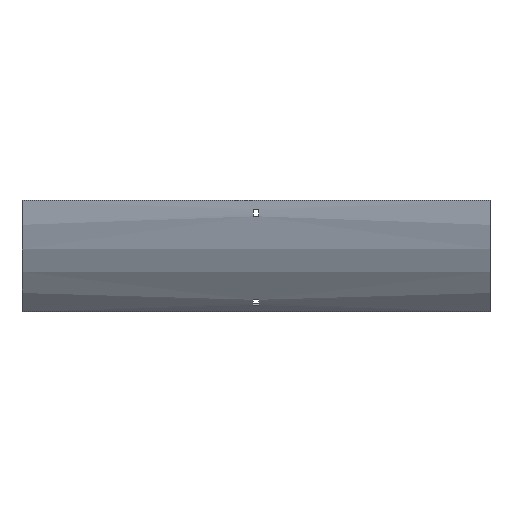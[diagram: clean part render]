
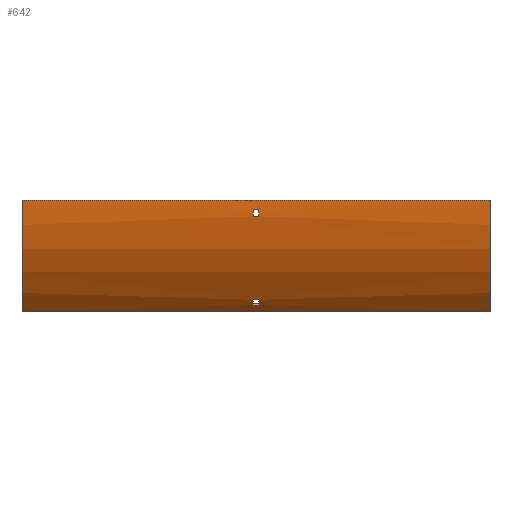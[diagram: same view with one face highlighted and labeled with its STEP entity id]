
A CAD part, front view. The second image highlights one B-rep face of the part: STEP entity #642.
In plain terms, the highlighted cylindrical face has radius 204 mm (diameter 408 mm), a partial arc.
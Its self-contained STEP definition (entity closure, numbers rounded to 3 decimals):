
#9 = DIRECTION ( 'NONE',  ( 1., 0., 0. ) ) ;
#38 = CIRCLE ( 'NONE', #984, 204. ) ;
#81 = VECTOR ( 'NONE', #558, 1000. ) ;
#82 = CARTESIAN_POINT ( 'NONE',  ( 302., -58.333, -128.634 ) ) ;
#98 = CARTESIAN_POINT ( 'NONE',  ( 3.25, -103.647, -12. ) ) ;
#119 = DIRECTION ( 'NONE',  ( 0., 0., 1. ) ) ;
#120 = EDGE_LOOP ( 'NONE', ( #249, #999, #881, #277 ) ) ;
#144 = LINE ( 'NONE', #660, #1035 ) ;
#214 = FACE_BOUND ( 'NONE', #361, .T. ) ;
#220 = AXIS2_PLACEMENT_3D ( 'NONE', #1354, #979, #326 ) ;
#224 = EDGE_CURVE ( 'NONE', #1561, #351, #1635, .T. ) ;
#241 = ORIENTED_EDGE ( 'NONE', *, *, #877, .F. ) ;
#249 = ORIENTED_EDGE ( 'NONE', *, *, #224, .T. ) ;
#277 = ORIENTED_EDGE ( 'NONE', *, *, #1008, .T. ) ;
#313 = CIRCLE ( 'NONE', #220, 204. ) ;
#322 = EDGE_CURVE ( 'NONE', #1539, #1024, #38, .T. ) ;
#326 = DIRECTION ( 'NONE',  ( 0., 0., -1. ) ) ;
#330 = AXIS2_PLACEMENT_3D ( 'NONE', #1257, #1533, #363 ) ;
#350 = DIRECTION ( 'NONE',  ( 1., 0., 0. ) ) ;
#351 = VERTEX_POINT ( 'NONE', #932 ) ;
#361 = EDGE_LOOP ( 'NONE', ( #579, #1224, #543, #638 ) ) ;
#363 = DIRECTION ( 'NONE',  ( 0., 0., 1. ) ) ;
#383 = EDGE_CURVE ( 'NONE', #1030, #654, #1037, .T. ) ;
#403 = AXIS2_PLACEMENT_3D ( 'NONE', #1547, #1212, #567 ) ;
#423 = CARTESIAN_POINT ( 'NONE',  ( 3.25, -52.485, -135.515 ) ) ;
#435 = LINE ( 'NONE', #814, #81 ) ;
#438 = CARTESIAN_POINT ( 'NONE',  ( 302., 100., 0. ) ) ;
#518 = DIRECTION ( 'NONE',  ( 0., 0., -1. ) ) ;
#543 = ORIENTED_EDGE ( 'NONE', *, *, #1205, .T. ) ;
#558 = DIRECTION ( 'NONE',  ( -1., 0., 0. ) ) ;
#567 = DIRECTION ( 'NONE',  ( 0., 0., -1. ) ) ;
#579 = ORIENTED_EDGE ( 'NONE', *, *, #762, .T. ) ;
#601 = LINE ( 'NONE', #1123, #1099 ) ;
#616 = CIRCLE ( 'NONE', #330, 204. ) ;
#618 = VERTEX_POINT ( 'NONE', #861 ) ;
#627 = ORIENTED_EDGE ( 'NONE', *, *, #871, .F. ) ;
#631 = ORIENTED_EDGE ( 'NONE', *, *, #1524, .F. ) ;
#638 = ORIENTED_EDGE ( 'NONE', *, *, #322, .T. ) ;
#642 = ADVANCED_FACE ( 'NONE', ( #1384, #214, #733 ), #1256, .T. ) ;
#654 = VERTEX_POINT ( 'NONE', #1164 ) ;
#660 = CARTESIAN_POINT ( 'NONE',  ( 302., -102.916, -21. ) ) ;
#680 = EDGE_CURVE ( 'NONE', #654, #351, #435, .T. ) ;
#733 = FACE_BOUND ( 'NONE', #754, .T. ) ;
#734 = CARTESIAN_POINT ( 'NONE',  ( -302., -104., 0. ) ) ;
#754 = EDGE_LOOP ( 'NONE', ( #627, #241, #631, #1573 ) ) ;
#762 = EDGE_CURVE ( 'NONE', #1024, #618, #144, .T. ) ;
#814 = CARTESIAN_POINT ( 'NONE',  ( 302., -44.25, -144.25 ) ) ;
#856 = LINE ( 'NONE', #1117, #1529 ) ;
#861 = CARTESIAN_POINT ( 'NONE',  ( -3.25, -102.916, -21. ) ) ;
#871 = EDGE_CURVE ( 'NONE', #1463, #1441, #313, .T. ) ;
#877 = EDGE_CURVE ( 'NONE', #915, #1463, #1377, .T. ) ;
#881 = ORIENTED_EDGE ( 'NONE', *, *, #383, .F. ) ;
#885 = CARTESIAN_POINT ( 'NONE',  ( 302., -103.647, -12. ) ) ;
#886 = DIRECTION ( 'NONE',  ( -1., 0., 0. ) ) ;
#915 = VERTEX_POINT ( 'NONE', #1620 ) ;
#916 = DIRECTION ( 'NONE',  ( -1., 0., 0. ) ) ;
#920 = DIRECTION ( 'NONE',  ( 1., 0., 0. ) ) ;
#932 = CARTESIAN_POINT ( 'NONE',  ( -302., -44.25, -144.25 ) ) ;
#979 = DIRECTION ( 'NONE',  ( 1., 0., 0. ) ) ;
#984 = AXIS2_PLACEMENT_3D ( 'NONE', #1477, #9, #518 ) ;
#999 = ORIENTED_EDGE ( 'NONE', *, *, #680, .F. ) ;
#1001 = CARTESIAN_POINT ( 'NONE',  ( 3.25, 100., 0. ) ) ;
#1008 = EDGE_CURVE ( 'NONE', #1030, #1561, #856, .T. ) ;
#1024 = VERTEX_POINT ( 'NONE', #1378 ) ;
#1030 = VERTEX_POINT ( 'NONE', #1365 ) ;
#1035 = VECTOR ( 'NONE', #916, 1000. ) ;
#1037 = CIRCLE ( 'NONE', #1627, 204. ) ;
#1099 = VECTOR ( 'NONE', #350, 1000. ) ;
#1109 = AXIS2_PLACEMENT_3D ( 'NONE', #1124, #886, #1411 ) ;
#1117 = CARTESIAN_POINT ( 'NONE',  ( 302., -104., 0. ) ) ;
#1120 = EDGE_CURVE ( 'NONE', #1441, #1330, #601, .T. ) ;
#1123 = CARTESIAN_POINT ( 'NONE',  ( 302., -52.485, -135.515 ) ) ;
#1124 = CARTESIAN_POINT ( 'NONE',  ( 302., 100., 0. ) ) ;
#1129 = DIRECTION ( 'NONE',  ( -1., 0., 0. ) ) ;
#1164 = CARTESIAN_POINT ( 'NONE',  ( 302., -44.25, -144.25 ) ) ;
#1178 = VECTOR ( 'NONE', #1227, 1000. ) ;
#1205 = EDGE_CURVE ( 'NONE', #1435, #1539, #1290, .T. ) ;
#1206 = AXIS2_PLACEMENT_3D ( 'NONE', #1001, #1407, #119 ) ;
#1212 = DIRECTION ( 'NONE',  ( 1., 0., 0. ) ) ;
#1224 = ORIENTED_EDGE ( 'NONE', *, *, #1619, .T. ) ;
#1227 = DIRECTION ( 'NONE',  ( -1., 0., 0. ) ) ;
#1256 = CYLINDRICAL_SURFACE ( 'NONE', #1109, 204. ) ;
#1257 = CARTESIAN_POINT ( 'NONE',  ( -3.25, 100., 0. ) ) ;
#1282 = DIRECTION ( 'NONE',  ( 1., 0., 0. ) ) ;
#1290 = LINE ( 'NONE', #885, #1305 ) ;
#1304 = DIRECTION ( 'NONE',  ( 0., 0., -1. ) ) ;
#1305 = VECTOR ( 'NONE', #1282, 1000. ) ;
#1330 = VERTEX_POINT ( 'NONE', #423 ) ;
#1339 = CARTESIAN_POINT ( 'NONE',  ( -3.25, -103.647, -12. ) ) ;
#1354 = CARTESIAN_POINT ( 'NONE',  ( -3.25, 100., 0. ) ) ;
#1365 = CARTESIAN_POINT ( 'NONE',  ( 302., -104., 0. ) ) ;
#1377 = LINE ( 'NONE', #82, #1178 ) ;
#1378 = CARTESIAN_POINT ( 'NONE',  ( 3.25, -102.916, -21. ) ) ;
#1384 = FACE_OUTER_BOUND ( 'NONE', #120, .T. ) ;
#1407 = DIRECTION ( 'NONE',  ( -1., 0., 0. ) ) ;
#1411 = DIRECTION ( 'NONE',  ( 0., 0., 1. ) ) ;
#1435 = VERTEX_POINT ( 'NONE', #1339 ) ;
#1441 = VERTEX_POINT ( 'NONE', #1484 ) ;
#1463 = VERTEX_POINT ( 'NONE', #1613 ) ;
#1477 = CARTESIAN_POINT ( 'NONE',  ( 3.25, 100., 0. ) ) ;
#1484 = CARTESIAN_POINT ( 'NONE',  ( -3.25, -52.485, -135.515 ) ) ;
#1524 = EDGE_CURVE ( 'NONE', #1330, #915, #1652, .T. ) ;
#1529 = VECTOR ( 'NONE', #1129, 1000. ) ;
#1533 = DIRECTION ( 'NONE',  ( -1., 0., 0. ) ) ;
#1539 = VERTEX_POINT ( 'NONE', #98 ) ;
#1547 = CARTESIAN_POINT ( 'NONE',  ( -302., 100., 0. ) ) ;
#1561 = VERTEX_POINT ( 'NONE', #734 ) ;
#1573 = ORIENTED_EDGE ( 'NONE', *, *, #1120, .F. ) ;
#1613 = CARTESIAN_POINT ( 'NONE',  ( -3.25, -58.333, -128.634 ) ) ;
#1619 = EDGE_CURVE ( 'NONE', #618, #1435, #616, .T. ) ;
#1620 = CARTESIAN_POINT ( 'NONE',  ( 3.25, -58.333, -128.634 ) ) ;
#1627 = AXIS2_PLACEMENT_3D ( 'NONE', #438, #920, #1304 ) ;
#1635 = CIRCLE ( 'NONE', #403, 204. ) ;
#1652 = CIRCLE ( 'NONE', #1206, 204. ) ;
